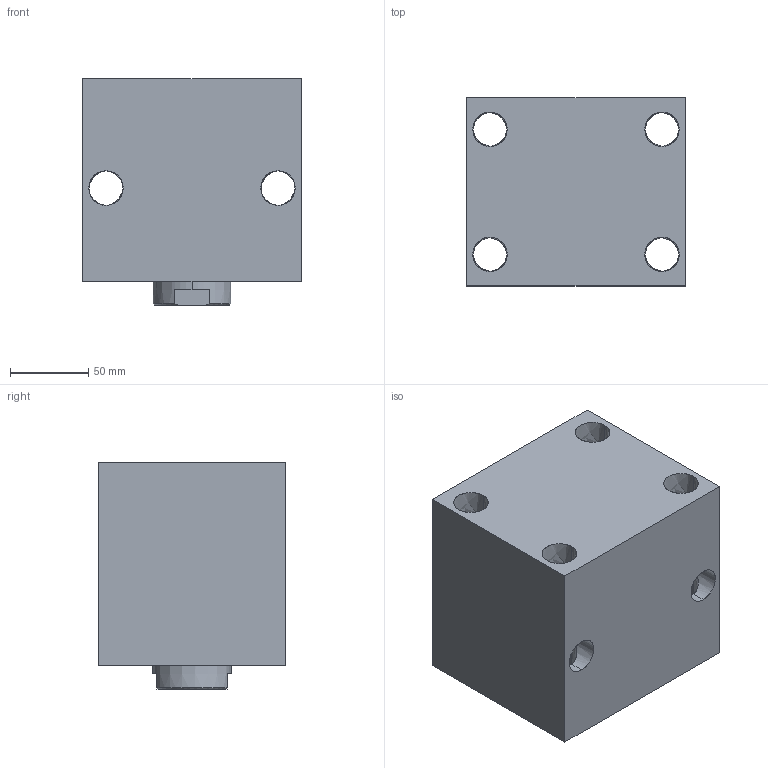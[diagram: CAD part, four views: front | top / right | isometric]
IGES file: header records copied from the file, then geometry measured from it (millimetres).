
Start section: SolidWorks IGES file using analytic representation for surfaces
Global section: file name: D:\karuppas\Clasp\3D model\Block cylinder B01C-Female thread\B01C-850F\Block cylinder B01C-850F.IGS; native system: SolidWorks 2017; preprocessor: SolidWorks 2017; author: pc; date: 220710.000902; units: millimetre
Bounding box: 140 x 120 x 145 mm (x, y, z)
Surface area: 182361 mm2 (no closed solid volume)
Topology: 0 solids, 0 shells, 353 faces, 5548 edges, 5542 vertices
Faces by surface type: bspline 301, revolution 52
